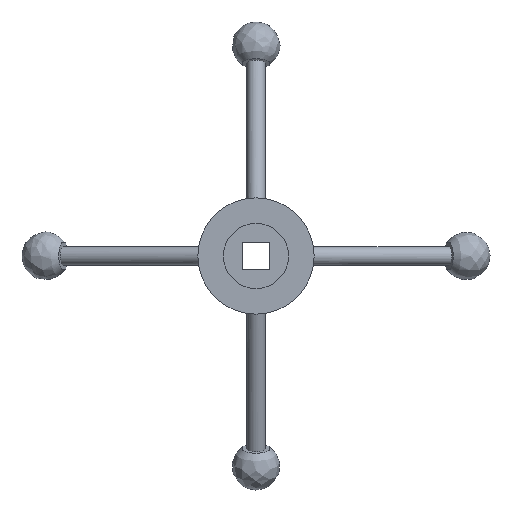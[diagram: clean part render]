
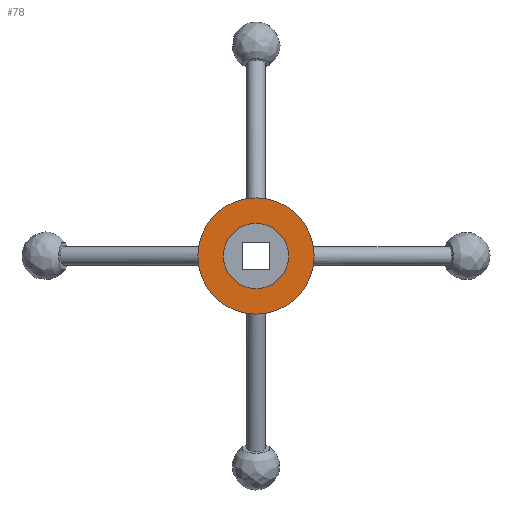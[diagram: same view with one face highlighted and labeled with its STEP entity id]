
A CAD part, front view. The second image highlights one B-rep face of the part: STEP entity #78.
In plain terms, the highlighted planar face has unit normal (0, -1, 0).
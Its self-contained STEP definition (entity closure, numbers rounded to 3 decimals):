
#78 = ADVANCED_FACE( '', ( #107, #108 ), #109, .F. );
#107 = FACE_BOUND( '', #173, .T. );
#108 = FACE_OUTER_BOUND( '', #174, .T. );
#109 = PLANE( '', #175 );
#173 = EDGE_LOOP( '', ( #384 ) );
#174 = EDGE_LOOP( '', ( #385 ) );
#175 = AXIS2_PLACEMENT_3D( '', #386, #387, #388 );
#384 = ORIENTED_EDGE( '', *, *, #489, .F. );
#385 = ORIENTED_EDGE( '', *, *, #490, .T. );
#386 = CARTESIAN_POINT( '', ( 25., 9., 0. ) );
#387 = DIRECTION( '', ( 0., 1., 0. ) );
#388 = DIRECTION( '', ( 0., 0., 1. ) );
#489 = EDGE_CURVE( '', #529, #529, #530, .T. );
#490 = EDGE_CURVE( '', #531, #531, #532, .T. );
#529 = VERTEX_POINT( '', #652 );
#530 = CIRCLE( '', #653, 14. );
#531 = VERTEX_POINT( '', #654 );
#532 = CIRCLE( '', #655, 25. );
#652 = CARTESIAN_POINT( '', ( 0., 9., -14. ) );
#653 = AXIS2_PLACEMENT_3D( '', #905, #906, #907 );
#654 = CARTESIAN_POINT( '', ( 0., 9., -25. ) );
#655 = AXIS2_PLACEMENT_3D( '', #908, #909, #910 );
#905 = CARTESIAN_POINT( '', ( 0., 9., 0. ) );
#906 = DIRECTION( '', ( 0., -1., 0. ) );
#907 = DIRECTION( '', ( 0., 0., -1. ) );
#908 = CARTESIAN_POINT( '', ( 0., 9., 0. ) );
#909 = DIRECTION( '', ( 0., -1., 0. ) );
#910 = DIRECTION( '', ( 0., 0., -1. ) );
